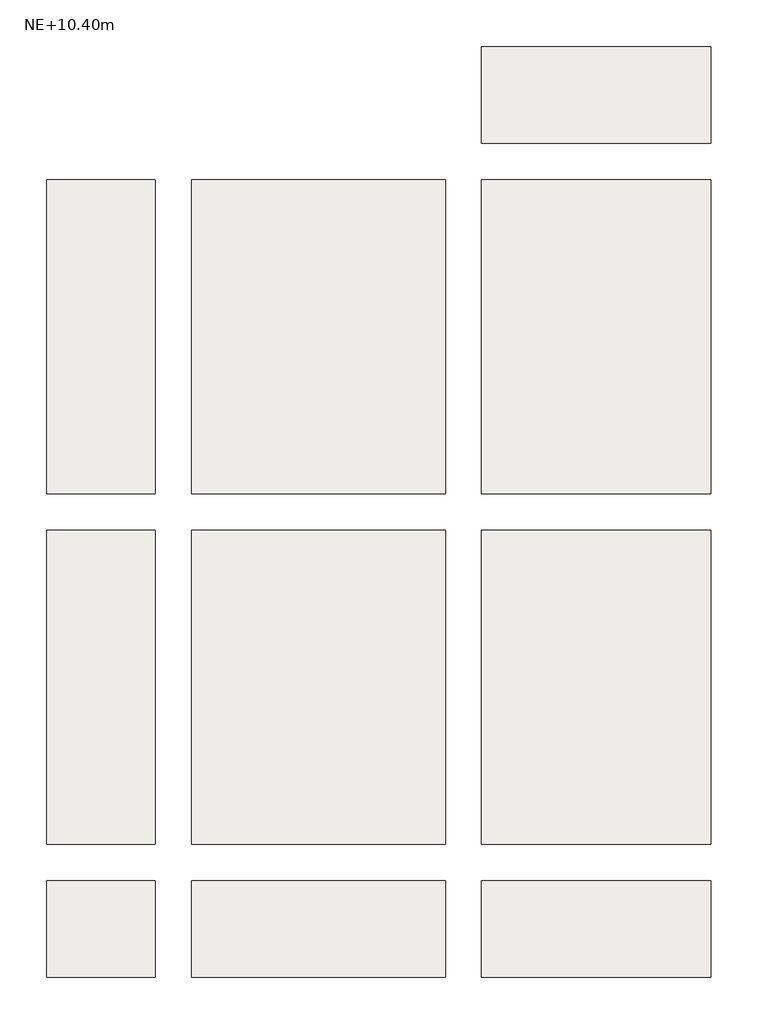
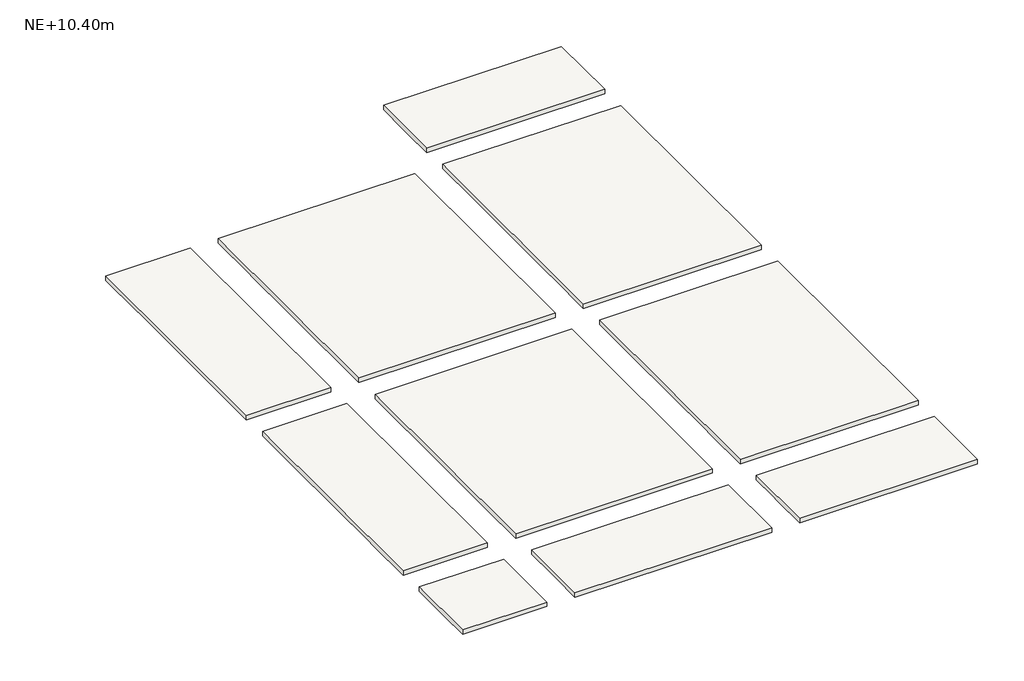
# One storey: 1 slab.
"""IFC4 building model written with IfcOpenShell, lengths in millimetres."""

from ifc_helpers import new_model, si_unit, origin, place, context, project, spatial, faceted_brep, element, save

model = new_model("IFC4")

# Units and contexts
model_context = context("Model", 3, world=origin())
ifc_project = project(units=[si_unit("LENGTHUNIT", "METRE", prefix="MILLI")], contexts=[model_context])

# Site, building, storey
site = spatial("IfcSite", under=ifc_project)
building = spatial("IfcBuilding", under=site)
storey = spatial("IfcBuildingStorey", under=building, Name="NE+10.40m", Elevation=10400.0)

# Slab
placement = place(None, origin())
element("IfcSlab", 1, ObjectType="Torta superior e=5cm", at=placement, inside=storey, context=model_context, shape_type="Brep", body=[
    faceted_brep([(1352.3188918, -7137.1867862, 10350.0), (1352.3188918, -7487.1867862, 10350.0), (1352.3188918, -7587.1867862, 10350.0), (1352.3188918, -7937.1867862, 10350.0), (-747.6811082, -7937.1867862, 10350.0), (-747.6811082, -7587.1867862, 10350.0), (-747.6811082, -7487.1867862, 10350.0), (-747.6811082, -7137.1867862, 10350.0), (1352.3188918, -7137.1867862, 10400.0), (-747.6811082, -7137.1867862, 10400.0), (-747.6811082, -7937.1867862, 10400.0), (1352.3188918, -7937.1867862, 10400.0)], [[[0, 1, 2, 3, 4, 5, 6, 7]], [[8, 9, 10, 11]], [[3, 2, 1, 0, 8, 11]], [[4, 3, 11, 10]], [[7, 6, 5, 4, 10, 9]], [[0, 7, 9, 8]]]),
    faceted_brep([(-1047.6811082, -7137.1867862, 10350.0), (-1047.6811082, -7487.1867862, 10350.0), (-1047.6811082, -7587.1867862, 10350.0), (-1047.6811082, -7937.1867862, 10350.0), (-1947.6811082, -7937.1867862, 10350.0), (-1947.6811082, -7587.1867862, 10350.0), (-1947.6811082, -7487.1867862, 10350.0), (-1947.6811082, -7137.1867862, 10350.0), (-1047.6811082, -7137.1867862, 10400.0), (-1947.6811082, -7137.1867862, 10400.0), (-1947.6811082, -7937.1867862, 10400.0), (-1047.6811082, -7937.1867862, 10400.0)], [[[0, 1, 2, 3, 4, 5, 6, 7]], [[8, 9, 10, 11]], [[3, 2, 1, 0, 8, 11]], [[4, 3, 11, 10]], [[7, 6, 5, 4, 10, 9]], [[0, 7, 9, 8]]]),
    faceted_brep([(3552.3188918, -1337.1867862, 10350.0), (3552.3188918, -1887.1867862, 10350.0), (3552.3188918, -1987.1867862, 10350.0), (3552.3188918, -2587.1867862, 10350.0), (3552.3188918, -2687.1867862, 10350.0), (3552.3188918, -3287.1867862, 10350.0), (3552.3188918, -3387.1867862, 10350.0), (3552.3188918, -3937.1867862, 10350.0), (1652.3188918, -3937.1867862, 10350.0), (1652.3188918, -3387.1867862, 10350.0), (1652.3188918, -3287.1867862, 10350.0), (1652.3188918, -2687.1867862, 10350.0), (1652.3188918, -2587.1867862, 10350.0), (1652.3188918, -1987.1867862, 10350.0), (1652.3188918, -1887.1867862, 10350.0), (1652.3188918, -1337.1867862, 10350.0), (3552.3188918, -1337.1867862, 10400.0), (1652.3188918, -1337.1867862, 10400.0), (1652.3188918, -3937.1867862, 10400.0), (3552.3188918, -3937.1867862, 10400.0)], [[[0, 1, 2, 3, 4, 5, 6, 7, 8, 9, 10, 11, 12, 13, 14, 15]], [[16, 17, 18, 19]], [[7, 6, 5, 4, 3, 2, 1, 0, 16, 19]], [[8, 7, 19, 18]], [[15, 14, 13, 12, 11, 10, 9, 8, 18, 17]], [[0, 15, 17, 16]]]),
    faceted_brep([(1352.3188918, -1337.1867862, 10350.0), (1352.3188918, -1887.1867862, 10350.0), (1352.3188918, -1987.1867862, 10350.0), (1352.3188918, -2587.1867862, 10350.0), (1352.3188918, -2687.1867862, 10350.0), (1352.3188918, -3287.1867862, 10350.0), (1352.3188918, -3387.1867862, 10350.0), (1352.3188918, -3937.1867862, 10350.0), (-747.6811082, -3937.1867862, 10350.0), (-747.6811082, -3387.1867862, 10350.0), (-747.6811082, -3287.1867862, 10350.0), (-747.6811082, -2687.1867862, 10350.0), (-747.6811082, -2587.1867862, 10350.0), (-747.6811082, -1987.1867862, 10350.0), (-747.6811082, -1887.1867862, 10350.0), (-747.6811082, -1337.1867862, 10350.0), (1352.3188918, -1337.1867862, 10400.0), (-747.6811082, -1337.1867862, 10400.0), (-747.6811082, -3937.1867862, 10400.0), (1352.3188918, -3937.1867862, 10400.0)], [[[0, 1, 2, 3, 4, 5, 6, 7, 8, 9, 10, 11, 12, 13, 14, 15]], [[16, 17, 18, 19]], [[7, 6, 5, 4, 3, 2, 1, 0, 16, 19]], [[8, 7, 19, 18]], [[15, 14, 13, 12, 11, 10, 9, 8, 18, 17]], [[0, 15, 17, 16]]]),
    faceted_brep([(-1047.6811082, -1337.1867862, 10350.0), (-1047.6811082, -1887.1867862, 10350.0), (-1047.6811082, -1987.1867862, 10350.0), (-1047.6811082, -2587.1867862, 10350.0), (-1047.6811082, -2687.1867862, 10350.0), (-1047.6811082, -3287.1867862, 10350.0), (-1047.6811082, -3387.1867862, 10350.0), (-1047.6811082, -3937.1867862, 10350.0), (-1947.6811082, -3937.1867862, 10350.0), (-1947.6811082, -3387.1867862, 10350.0), (-1947.6811082, -3287.1867862, 10350.0), (-1947.6811082, -2687.1867862, 10350.0), (-1947.6811082, -2587.1867862, 10350.0), (-1947.6811082, -1987.1867862, 10350.0), (-1947.6811082, -1887.1867862, 10350.0), (-1947.6811082, -1337.1867862, 10350.0), (-1047.6811082, -1337.1867862, 10400.0), (-1947.6811082, -1337.1867862, 10400.0), (-1947.6811082, -3937.1867862, 10400.0), (-1047.6811082, -3937.1867862, 10400.0)], [[[0, 1, 2, 3, 4, 5, 6, 7, 8, 9, 10, 11, 12, 13, 14, 15]], [[16, 17, 18, 19]], [[7, 6, 5, 4, 3, 2, 1, 0, 16, 19]], [[8, 7, 19, 18]], [[15, 14, 13, 12, 11, 10, 9, 8, 18, 17]], [[0, 15, 17, 16]]]),
    faceted_brep([(-1047.6811082, -4237.1867862, 10350.0), (-1047.6811082, -4787.1867862, 10350.0), (-1047.6811082, -4887.1867862, 10350.0), (-1047.6811082, -5487.1867862, 10350.0), (-1047.6811082, -5587.1867862, 10350.0), (-1047.6811082, -6187.1867862, 10350.0), (-1047.6811082, -6287.1867862, 10350.0), (-1047.6811082, -6837.1867862, 10350.0), (-1947.6811082, -6837.1867862, 10350.0), (-1947.6811082, -6287.1867862, 10350.0), (-1947.6811082, -6187.1867862, 10350.0), (-1947.6811082, -5587.1867862, 10350.0), (-1947.6811082, -5487.1867862, 10350.0), (-1947.6811082, -4887.1867862, 10350.0), (-1947.6811082, -4787.1867862, 10350.0), (-1947.6811082, -4237.1867862, 10350.0), (-1047.6811082, -4237.1867862, 10400.0), (-1947.6811082, -4237.1867862, 10400.0), (-1947.6811082, -6837.1867862, 10400.0), (-1047.6811082, -6837.1867862, 10400.0)], [[[0, 1, 2, 3, 4, 5, 6, 7, 8, 9, 10, 11, 12, 13, 14, 15]], [[16, 17, 18, 19]], [[7, 6, 5, 4, 3, 2, 1, 0, 16, 19]], [[8, 7, 19, 18]], [[15, 14, 13, 12, 11, 10, 9, 8, 18, 17]], [[0, 15, 17, 16]]]),
    faceted_brep([(1352.3188918, -4237.1867862, 10350.0), (1352.3188918, -4787.1867862, 10350.0), (1352.3188918, -4887.1867862, 10350.0), (1352.3188918, -5487.1867862, 10350.0), (1352.3188918, -5587.1867862, 10350.0), (1352.3188918, -6187.1867862, 10350.0), (1352.3188918, -6287.1867862, 10350.0), (1352.3188918, -6837.1867862, 10350.0), (-747.6811082, -6837.1867862, 10350.0), (-747.6811082, -6287.1867862, 10350.0), (-747.6811082, -6187.1867862, 10350.0), (-747.6811082, -5587.1867862, 10350.0), (-747.6811082, -5487.1867862, 10350.0), (-747.6811082, -4887.1867862, 10350.0), (-747.6811082, -4787.1867862, 10350.0), (-747.6811082, -4237.1867862, 10350.0), (1352.3188918, -4237.1867862, 10400.0), (-747.6811082, -4237.1867862, 10400.0), (-747.6811082, -6837.1867862, 10400.0), (1352.3188918, -6837.1867862, 10400.0)], [[[0, 1, 2, 3, 4, 5, 6, 7, 8, 9, 10, 11, 12, 13, 14, 15]], [[16, 17, 18, 19]], [[7, 6, 5, 4, 3, 2, 1, 0, 16, 19]], [[8, 7, 19, 18]], [[15, 14, 13, 12, 11, 10, 9, 8, 18, 17]], [[0, 15, 17, 16]]]),
    faceted_brep([(3552.3188918, -4237.1867862, 10350.0), (3552.3188918, -4787.1867862, 10350.0), (3552.3188918, -4887.1867862, 10350.0), (3552.3188918, -5487.1867862, 10350.0), (3552.3188918, -5587.1867862, 10350.0), (3552.3188918, -6187.1867862, 10350.0), (3552.3188918, -6287.1867862, 10350.0), (3552.3188918, -6837.1867862, 10350.0), (1652.3188918, -6837.1867862, 10350.0), (1652.3188918, -6287.1867862, 10350.0), (1652.3188918, -6187.1867862, 10350.0), (1652.3188918, -5587.1867862, 10350.0), (1652.3188918, -5487.1867862, 10350.0), (1652.3188918, -4887.1867862, 10350.0), (1652.3188918, -4787.1867862, 10350.0), (1652.3188918, -4237.1867862, 10350.0), (3552.3188918, -4237.1867862, 10400.0), (1652.3188918, -4237.1867862, 10400.0), (1652.3188918, -6837.1867862, 10400.0), (3552.3188918, -6837.1867862, 10400.0)], [[[0, 1, 2, 3, 4, 5, 6, 7, 8, 9, 10, 11, 12, 13, 14, 15]], [[16, 17, 18, 19]], [[7, 6, 5, 4, 3, 2, 1, 0, 16, 19]], [[8, 7, 19, 18]], [[15, 14, 13, 12, 11, 10, 9, 8, 18, 17]], [[0, 15, 17, 16]]]),
    faceted_brep([(3552.3188918, -7137.1867862, 10350.0), (3552.3188918, -7437.1867862, 10350.0), (3552.3188918, -7537.1867862, 10350.0), (3552.3188918, -7937.1867862, 10350.0), (1652.3188918, -7937.1867862, 10350.0), (1652.3188918, -7537.1867862, 10350.0), (1652.3188918, -7437.1867862, 10350.0), (1652.3188918, -7137.1867862, 10350.0), (3552.3188918, -7137.1867862, 10400.0), (1652.3188918, -7137.1867862, 10400.0), (1652.3188918, -7937.1867862, 10400.0), (3552.3188918, -7937.1867862, 10400.0)], [[[0, 1, 2, 3, 4, 5, 6, 7]], [[8, 9, 10, 11]], [[3, 2, 1, 0, 8, 11]], [[4, 3, 11, 10]], [[7, 6, 5, 4, 10, 9]], [[0, 7, 9, 8]]]),
    faceted_brep([(3552.3188918, -237.1867862, 10350.0), (3552.3188918, -587.1867862, 10350.0), (3552.3188918, -687.1867862, 10350.0), (3552.3188918, -1037.1867862, 10350.0), (1652.3188918, -1037.1867862, 10350.0), (1652.3188918, -687.1867862, 10350.0), (1652.3188918, -587.1867862, 10350.0), (1652.3188918, -237.1867862, 10350.0), (3552.3188918, -237.1867862, 10400.0), (1652.3188918, -237.1867862, 10400.0), (1652.3188918, -1037.1867862, 10400.0), (3552.3188918, -1037.1867862, 10400.0)], [[[0, 1, 2, 3, 4, 5, 6, 7]], [[8, 9, 10, 11]], [[3, 2, 1, 0, 8, 11]], [[4, 3, 11, 10]], [[7, 6, 5, 4, 10, 9]], [[0, 7, 9, 8]]]),
])

save(model, "model.ifc")
